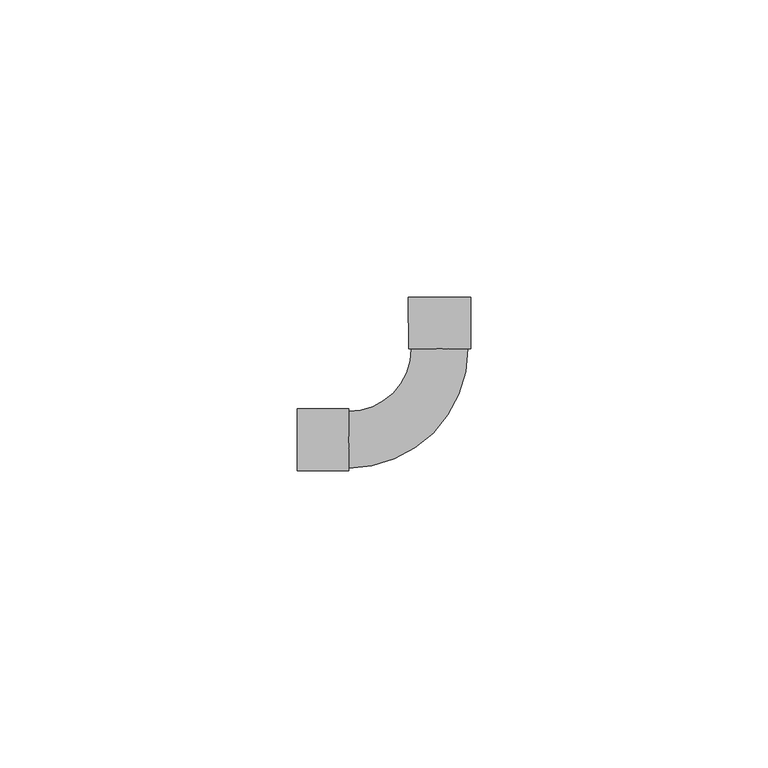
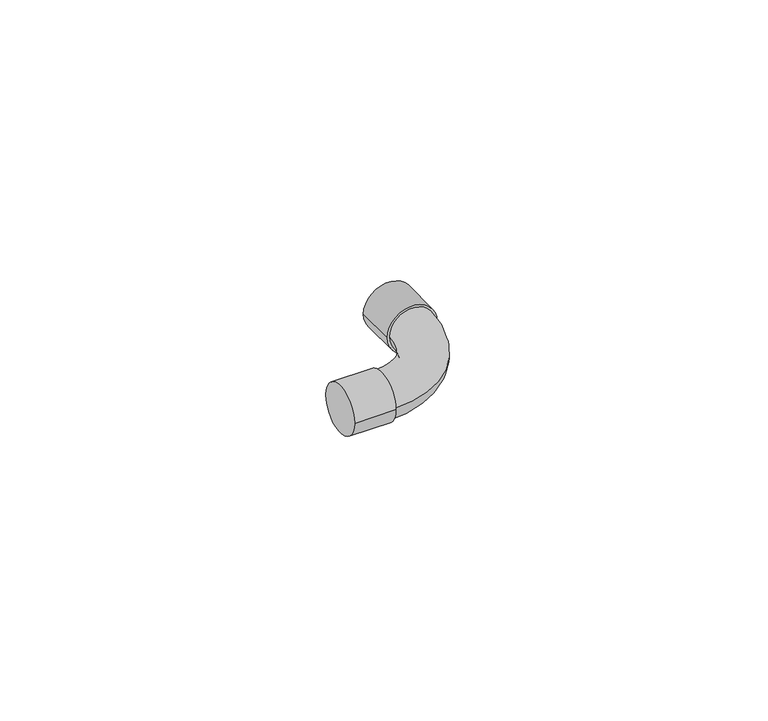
"""IFC4 building model written with IfcOpenShell, lengths in millimetres: pipe fitting geometry, Cotovelo - Soldado - CU : Padrão."""

from ifc_helpers import new_model, si_unit, point, frame, origin, place, context, project, spatial, circle_curve, ellipse_curve, trimmed, source, transform, mapped, element, save
from ifc_brep_helpers import plane_surface, cylinder_surface, revolved_surface, advanced_brep


def pipe_fitting_b8e29e14(model_context):
    return source(origin(), model_context, "Body", "AdvancedBrep", [
        advanced_brep(
        [(-4.7635954, 15.3500847, 0.0), (-15.3512, 4.76, 0.0), (-15.3512, -4.76, 0.0), (4.7564043, 15.3523145, 0.0), (-24.0256, -5.2552, 0.0), (-24.0256, 5.2552, 0.0), (-15.3512, -5.2552, 0.0), (-15.3512, 5.2552, 0.0), (-5.2608271, 24.0243685, 0.0), (5.2495726, 24.0268302, 0.0), (-5.2587954, 15.3499687, 0.0), (5.2516043, 15.3524304, 0.0)],
        [
            (0, 1, circle_curve(frame((-15.3512, 15.3476049, 0.0), z_axis=(0.0, 0.0, -1.0), x_axis=(0.0, -1.0, 0.0)), 10.5876049)),
            (1, 2, circle_curve(frame((-15.3512, 0.0, 0.0), z_axis=(1.0, 0.0, 0.0), x_axis=(0.0, 1.0, 0.0)), 4.76)),
            (2, 3, circle_curve(frame((-15.3512, 15.3476049, 0.0), z_axis=(0.0, 0.0, 1.0), x_axis=(0.0, -1.0, 0.0)), 20.1076049)),
            (3, 0, circle_curve(frame((-0.0035955, 15.3511996, 0.0), z_axis=(0.00023421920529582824, -0.9999999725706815, 0.0), x_axis=(-0.9999999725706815, -0.00023421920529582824, 0.0)), 4.76)),
            (0, 3, circle_curve(frame((-0.0035955, 15.3511996, 0.0), z_axis=(0.00023421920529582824, -0.9999999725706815, 0.0), x_axis=(-0.9999999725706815, -0.00023421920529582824, 0.0)), 4.76)),
            (2, 1, circle_curve(frame((-15.3512, 0.0, 0.0), z_axis=(1.0, 0.0, 0.0), x_axis=(0.0, 1.0, 0.0)), 4.76)),
            (4, 5, circle_curve(frame((-24.0256, 0.0, 0.0), z_axis=(-1.0, 0.0, 0.0), x_axis=(0.0, 1.0, 0.0)), 5.2552)),
            (5, 4, circle_curve(frame((-24.0256, 0.0, 0.0), z_axis=(-1.0, 0.0, 0.0), x_axis=(0.0, 1.0, 0.0)), 5.2552)),
            (6, 7, circle_curve(frame((-15.3512, 0.0, 0.0), z_axis=(1.0, 0.0, 0.0), x_axis=(0.0, 1.0, 0.0)), 5.2552)),
            (7, 6, circle_curve(frame((-15.3512, 0.0, 0.0), z_axis=(1.0, 0.0, 0.0), x_axis=(0.0, 1.0, 0.0)), 5.2552)),
            (4, 6),
            (7, 5),
            (8, 9, circle_curve(frame((-0.0056273, 24.0255993, 0.0), z_axis=(-0.00023421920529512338, 0.9999999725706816, 0.0), x_axis=(0.9999999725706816, 0.00023421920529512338, 0.0)), 5.2552)),
            (9, 8, circle_curve(frame((-0.0056273, 24.0255993, 0.0), z_axis=(-0.00023421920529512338, 0.9999999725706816, 0.0), x_axis=(0.9999999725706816, 0.00023421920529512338, 0.0)), 5.2552)),
            (10, 11, circle_curve(frame((-0.0035955, 15.3511996, 0.0), z_axis=(0.00023421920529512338, -0.9999999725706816, 0.0), x_axis=(0.9999999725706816, 0.00023421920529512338, 0.0)), 5.2552)),
            (11, 10, circle_curve(frame((-0.0035955, 15.3511996, 0.0), z_axis=(0.00023421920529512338, -0.9999999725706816, 0.0), x_axis=(0.9999999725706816, 0.00023421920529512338, 0.0)), 5.2552)),
            (8, 10),
            (11, 9),
        ],
        [
            revolved_surface(trimmed(ellipse_curve(frame((-15.3512, 0.0, 0.0), z_axis=(-1.0, 0.0, 0.0), x_axis=(0.0, 1.0, 0.0)), 4.76, 4.76), [point((-15.3512, -4.76, 0.0))], [point((-15.3512, 4.76, 0.0))], True, "CARTESIAN"), (-15.3512, 15.3476049, 0.0), (0.0, 0.0, 1.0)),
            revolved_surface(trimmed(ellipse_curve(frame((-15.3512, 0.0, 0.0), z_axis=(-1.0, 0.0, 0.0), x_axis=(0.0, 1.0, 0.0)), 4.76, 4.76), [point((-15.3512, 4.76, 0.0))], [point((-15.3512, -4.76, 0.0))], True, "CARTESIAN"), (-15.3512, 15.3476049, 0.0), (0.0, 0.0, 1.0)),
            plane_surface(frame((-24.0256, 0.0, 0.0), z_axis=(-1.0, 0.0, 0.0), x_axis=(0.0, 0.0, 1.0))),
            plane_surface(frame((-15.3512, 0.0, 0.0), z_axis=(1.0, 0.0, 0.0), x_axis=(0.0, 0.0, 1.0))),
            cylinder_surface(frame((-24.0256, 0.0, 0.0), z_axis=(-1.0, 0.0, 0.0), x_axis=(0.0, 1.0, 0.0)), 5.2552),
            plane_surface(frame((-0.0056273, 24.0255993, 0.0), z_axis=(-0.00023421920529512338, 0.9999999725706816, 0.0), x_axis=(0.0, 0.0, 1.0))),
            plane_surface(frame((-0.0035955, 15.3511996, 0.0), z_axis=(0.00023421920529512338, -0.9999999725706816, 0.0), x_axis=(0.0, 0.0, 1.0))),
            cylinder_surface(frame((-0.0056273, 24.0255993, 0.0), z_axis=(-0.00023421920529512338, 0.9999999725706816, 0.0), x_axis=(0.9999999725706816, 0.00023421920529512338, 0.0)), 5.2552),
        ],
        [
            (0, [[1, 2, 3, 4]]),
            (1, [[-1, 5, -3, 6]]),
            (2, [[7, 8]]),
            (3, [[9, 10], [-2, -6]]),
            (4, [[-7, 11, -10, 12]]),
            (4, [[-8, -12, -9, -11]]),
            (5, [[13, 14]]),
            (6, [[15, 16], [-4, -5]]),
            (7, [[-13, 17, -16, 18]]),
            (7, [[-14, -18, -15, -17]]),
        ],
    ),
    ])


if __name__ == "__main__":
    model = new_model("IFC4")
    model_context = context("Model", 3, world=origin())
    ifc_project = project(units=[si_unit("LENGTHUNIT", "METRE", prefix="MILLI")], contexts=[model_context])
    site = spatial("IfcSite", under=ifc_project)
    building = spatial("IfcBuilding", under=site)
    placement = place(None, origin())
    pipe_fitting_shape = pipe_fitting_b8e29e14(model_context)
    element("IfcPipeFitting", 1, ObjectType="Cotovelo - Soldado - CU : Padrão", at=placement, inside=building, context=model_context, shape_type="MappedRepresentation", body=[
        mapped(pipe_fitting_shape, transform((0.0, 0.0, 0.0), x_axis=(1.0, 0.0, 0.0), y_axis=(0.0, 1.0, 0.0), z_axis=(0.0, 0.0, 1.0))),
    ])
    save(model, "model.ifc")
